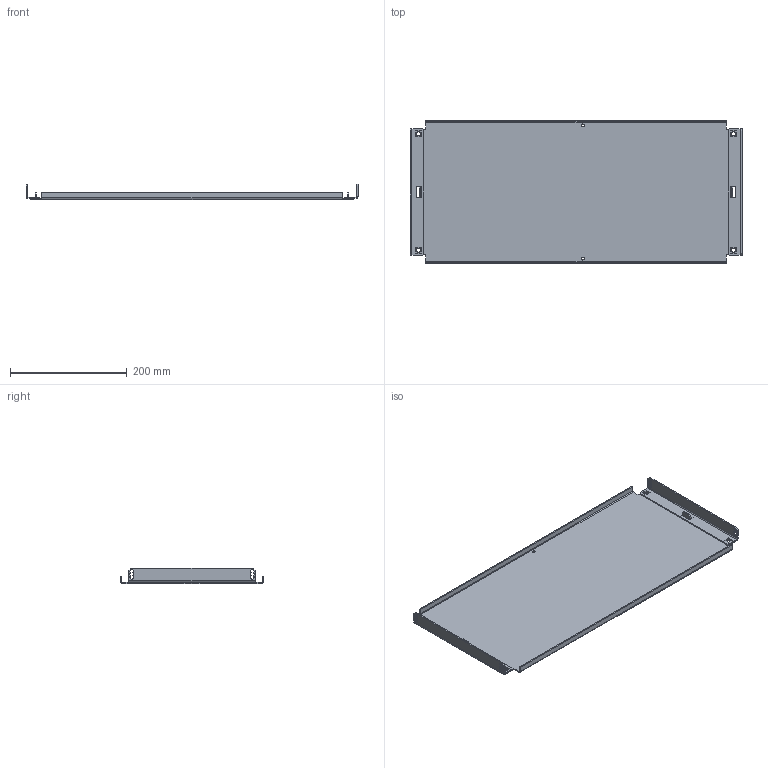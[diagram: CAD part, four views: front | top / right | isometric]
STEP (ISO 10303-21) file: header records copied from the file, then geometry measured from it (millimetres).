
FILE_DESCRIPTION(('STEP AP203'), '1');
FILE_NAME('Ïàíåëü ìîíòàæíàÿ ãëóõàÿ Â250õØ600 ìì OptiBox M 419104 ÊÝÀÇ', '', ('UNSPECIFIED'), ('UNSPECIFIED'), 'C3D Converter', 'C3D Toolkit', '');
FILE_SCHEMA(('CONFIG_CONTROL_DESIGN'));
Length unit declared in the file: millimetre
Bounding box: 569.2 x 245 x 26 mm (x, y, z)
Volume: 323539.1 mm3; surface area: 330170.7 mm2
Topology: 3 solids, 3 shells, 152 faces, 398 edges, 252 vertices
Faces by surface type: plane 118, cylinder 34
Full cylindrical faces by diameter (mm): 4.6 x2, 7.3 x4
Entity records: 5892 total; most frequent: CARTESIAN_POINT 797, ORIENTED_EDGE 784, DIRECTION 766, EDGE_CURVE 392, LINE 324, VECTOR 324, VERTEX_POINT 252, AXIS2_PLACEMENT_3D 221
